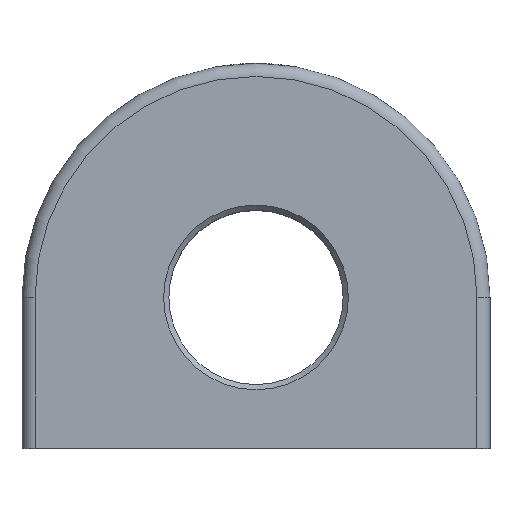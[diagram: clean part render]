
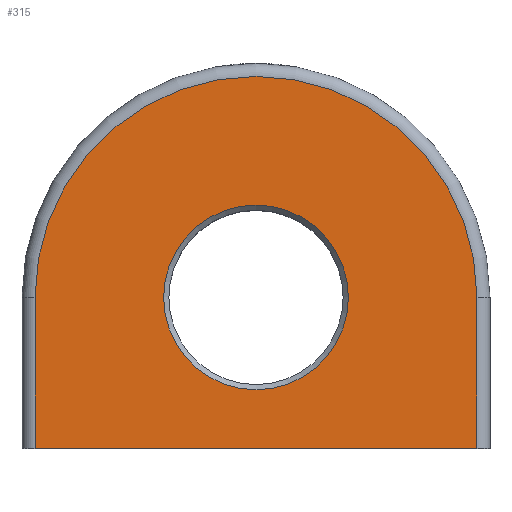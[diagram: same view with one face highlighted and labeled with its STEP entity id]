
A CAD part, top view. The second image highlights one B-rep face of the part: STEP entity #315.
In plain terms, the highlighted planar face has unit normal (0, 0, 1).
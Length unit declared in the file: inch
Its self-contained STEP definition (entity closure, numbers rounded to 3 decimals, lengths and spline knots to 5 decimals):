
#18=PLANE('',#354);
#26=FACE_BOUND('',#70,.T.);
#47=FACE_OUTER_BOUND('',#69,.T.);
#69=EDGE_LOOP('',(#240,#241,#242,#243));
#70=EDGE_LOOP('',(#244));
#95=LINE('',#552,#115);
#96=LINE('',#556,#116);
#97=LINE('',#557,#117);
#115=VECTOR('',#413,0.3937);
#116=VECTOR('',#416,0.3937);
#117=VECTOR('',#417,0.3937);
#133=CIRCLE('',#353,0.1775);
#134=CIRCLE('',#355,0.42475);
#158=VERTEX_POINT('',#546);
#159=VERTEX_POINT('',#550);
#160=VERTEX_POINT('',#551);
#161=VERTEX_POINT('',#553);
#162=VERTEX_POINT('',#555);
#188=EDGE_CURVE('',#158,#158,#133,.T.);
#190=EDGE_CURVE('',#159,#160,#95,.T.);
#191=EDGE_CURVE('',#161,#159,#134,.T.);
#192=EDGE_CURVE('',#162,#161,#96,.T.);
#193=EDGE_CURVE('',#160,#162,#97,.T.);
#240=ORIENTED_EDGE('',*,*,#190,.F.);
#241=ORIENTED_EDGE('',*,*,#191,.F.);
#242=ORIENTED_EDGE('',*,*,#192,.F.);
#243=ORIENTED_EDGE('',*,*,#193,.F.);
#244=ORIENTED_EDGE('',*,*,#188,.F.);
#315=ADVANCED_FACE('',(#47,#26),#18,.F.);
#353=AXIS2_PLACEMENT_3D('',#547,#408,#409);
#354=AXIS2_PLACEMENT_3D('',#549,#411,#412);
#355=AXIS2_PLACEMENT_3D('',#554,#414,#415);
#408=DIRECTION('center_axis',(0.,0.,
1.));
#409=DIRECTION('ref_axis',(1.,0.,0.));
#411=DIRECTION('center_axis',(0.,0.,
-1.));
#412=DIRECTION('ref_axis',(1.,0.,0.));
#413=DIRECTION('',(0.,-1.,0.));
#414=DIRECTION('center_axis',(0.,0.,
-1.));
#415=DIRECTION('ref_axis',(0.,1.,0.));
#416=DIRECTION('',(0.,1.,0.));
#417=DIRECTION('',(-1.,0.,0.));
#546=CARTESIAN_POINT('',(-0.1775,0.,0.275));
#547=CARTESIAN_POINT('Origin',(0.,0.,
0.275));
#549=CARTESIAN_POINT('Origin',(0.,0.06358,
0.275));
#550=CARTESIAN_POINT('',(0.42475,0.,0.275));
#551=CARTESIAN_POINT('',(0.42475,-0.29005,0.275));
#552=CARTESIAN_POINT('',(0.42475,0.03179,0.275));
#553=CARTESIAN_POINT('',(-0.42475,0.,0.275));
#554=CARTESIAN_POINT('Origin',(0.,0.,
0.275));
#555=CARTESIAN_POINT('',(-0.42475,-0.29005,0.275));
#556=CARTESIAN_POINT('',(-0.42475,-0.08088,0.275));
#557=CARTESIAN_POINT('',(0.17625,-0.29005,0.275));
